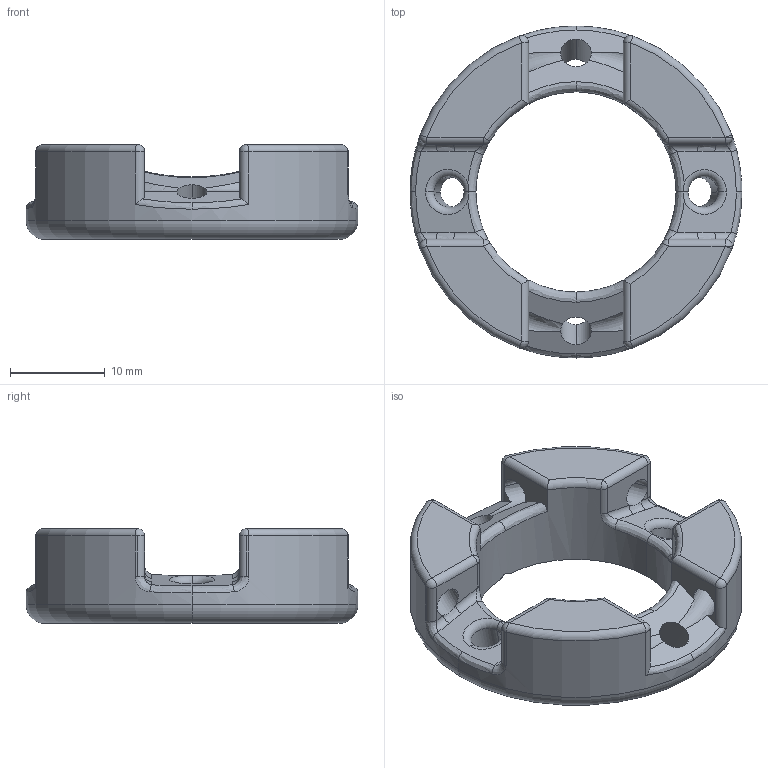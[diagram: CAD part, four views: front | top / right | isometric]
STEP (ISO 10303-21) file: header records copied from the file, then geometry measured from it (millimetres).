
FILE_DESCRIPTION (( 'STEP AP214' ), '1' );
FILE_NAME ('Orignal Lamp Ring Jan10.STEP', '2017-01-10T13:40:55', ( '' ), ( '' ), 'SwSTEP 2.0', 'SolidWorks 2016', '' );
FILE_SCHEMA (( 'AUTOMOTIVE_DESIGN' ));
Length unit declared in the file: millimetre
Products named in the file (1): Orignal Lamp Ring Jan10
Bounding box: 35 x 35 x 10 mm (x, y, z)
Volume: 4030.1 mm3; surface area: 3246.9 mm2
Topology: 1 solids, 1 shells, 125 faces, 352 edges, 202 vertices
Faces by surface type: cylinder 42, bspline 28, torus 22, plane 19, sphere 14
Entity records: 4990 total; most frequent: CARTESIAN_POINT 2128, ORIENTED_EDGE 672, DIRECTION 538, EDGE_CURVE 336, AXIS2_PLACEMENT_3D 228, VERTEX_POINT 198, CIRCLE 130, EDGE_LOOP 128
